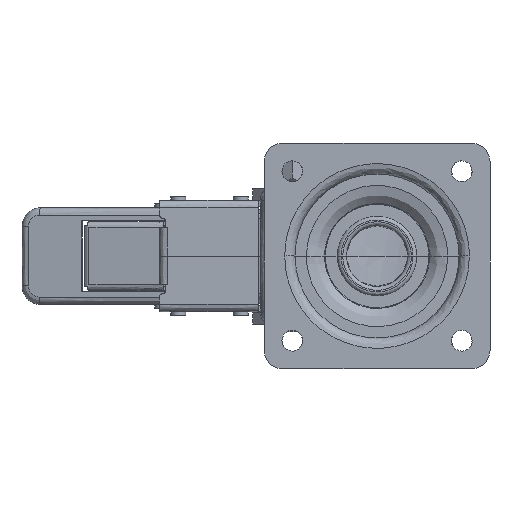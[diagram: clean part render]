
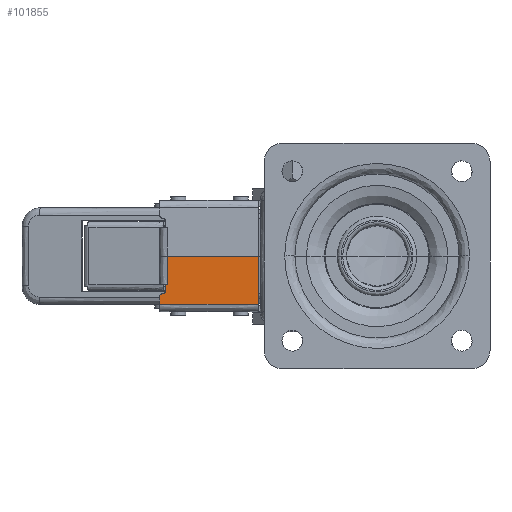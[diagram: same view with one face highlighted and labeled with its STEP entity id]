
A CAD part, top view. The second image highlights one B-rep face of the part: STEP entity #101855.
In plain terms, the highlighted planar face has unit normal (0, 0, 1).
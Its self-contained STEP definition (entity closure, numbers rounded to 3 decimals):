
#4561 = VERTEX_POINT ( 'NONE', #137973 ) ;
#4562 = VERTEX_POINT ( 'NONE', #137975 ) ;
#4563 = VERTEX_POINT ( 'NONE', #137977 ) ;
#4564 = VERTEX_POINT ( 'NONE', #137979 ) ;
#4565 = VERTEX_POINT ( 'NONE', #137981 ) ;
#4566 = VERTEX_POINT ( 'NONE', #137983 ) ;
#4579 = VERTEX_POINT ( 'NONE', #138012 ) ;
#4580 = VERTEX_POINT ( 'NONE', #138014 ) ;
#12222 = CARTESIAN_POINT ( 'NONE',  ( -18.004, -25.6, 99. ) ) ;
#12240 = CARTESIAN_POINT ( 'NONE',  ( -70.504, -25.6, 99. ) ) ;
#15230 = EDGE_CURVE ( 'NONE', #4580, #4566, #101530, .T. ) ;
#15231 = EDGE_CURVE ( 'NONE', #4579, #4580, #101529, .T. ) ;
#15232 = EDGE_CURVE ( 'NONE', #4561, #4579, #101528, .T. ) ;
#15246 = EDGE_CURVE ( 'NONE', #4565, #4566, #101514, .T. ) ;
#15248 = EDGE_CURVE ( 'NONE', #4565, #4564, #101512, .T. ) ;
#15250 = EDGE_CURVE ( 'NONE', #4562, #4563, #101510, .T. ) ;
#15251 = EDGE_CURVE ( 'NONE', #4563, #4564, #101509, .T. ) ;
#15255 = EDGE_CURVE ( 'NONE', #137609, #4562, #101505, .T. ) ;
#15257 = EDGE_CURVE ( 'NONE', #4561, #137594, #101503, .T. ) ;
#24963 = EDGE_LOOP ( 'NONE', ( #141538, #141539, #141540, #141541, #141542, #141543, #141544, #141545, #141546, #141547 ) ) ;
#32164 = EDGE_CURVE ( 'NONE', #137594, #137609, #103306, .T. ) ;
#85835 = CARTESIAN_POINT ( 'NONE',  ( -18.004, 0., 99. ) ) ;
#85881 = PLANE ( 'NONE',  #141026 ) ;
#85898 = DIRECTION ( 'NONE',  ( 0., 0., 1. ) ) ;
#85900 = DIRECTION ( 'NONE',  ( -1., 0., 0. ) ) ;
#101503 = B_SPLINE_CURVE_WITH_KNOTS ( 'NONE', 3,
 ( #145000, #145032, #145033, #145034 ),
 .UNSPECIFIED., .F., .F.,
 ( 4, 4 ),
 ( 0., 1. ),
 .UNSPECIFIED. ) ;
#101505 = B_SPLINE_CURVE_WITH_KNOTS ( 'NONE', 3,
 ( #144995, #145001, #145002, #145003 ),
 .UNSPECIFIED., .F., .F.,
 ( 4, 4 ),
 ( 0., 1. ),
 .UNSPECIFIED. ) ;
#101509 = B_SPLINE_CURVE_WITH_KNOTS ( 'NONE', 3,
 ( #144962, #144985, #144986, #144987 ),
 .UNSPECIFIED., .F., .F.,
 ( 4, 4 ),
 ( 0., 1. ),
 .UNSPECIFIED. ) ;
#101510 = B_SPLINE_CURVE_WITH_KNOTS ( 'NONE', 3,
 ( #144978, #144981, #144982, #144983 ),
 .UNSPECIFIED., .F., .F.,
 ( 4, 4 ),
 ( 0., 1. ),
 .UNSPECIFIED. ) ;
#101512 = B_SPLINE_CURVE_WITH_KNOTS ( 'NONE', 3,
 ( #144958, #144963, #144964, #144965, #144966, #144967, #144968, #144969, #144970, #144971, #144972, #144973, #144974, #144975, #144976, #144977 ),
 .UNSPECIFIED., .F., .F.,
 ( 4, 1, 2, 2, 2, 1, 2, 2, 4 ),
 ( 0., 0.125, 0.188, 0.25, 0.5, 0.625, 0.687, 0.75, 1. ),
 .UNSPECIFIED. ) ;
#101514 = B_SPLINE_CURVE_WITH_KNOTS ( 'NONE', 3,
 ( #144951, #144955, #144956, #144957 ),
 .UNSPECIFIED., .F., .F.,
 ( 4, 4 ),
 ( 0., 1. ),
 .UNSPECIFIED. ) ;
#101528 = B_SPLINE_CURVE_WITH_KNOTS ( 'NONE', 3,
 ( #144872, #144878, #144879, #144880 ),
 .UNSPECIFIED., .F., .F.,
 ( 4, 4 ),
 ( 0., 1. ),
 .UNSPECIFIED. ) ;
#101529 = B_SPLINE_CURVE_WITH_KNOTS ( 'NONE', 3,
 ( #144868, #144874, #144875, #144876 ),
 .UNSPECIFIED., .F., .F.,
 ( 4, 4 ),
 ( 0., 1. ),
 .UNSPECIFIED. ) ;
#101530 = B_SPLINE_CURVE_WITH_KNOTS ( 'NONE', 3,
 ( #144862, #144869, #144870, #144871 ),
 .UNSPECIFIED., .F., .F.,
 ( 4, 4 ),
 ( 0., 1. ),
 .UNSPECIFIED. ) ;
#101855 = ADVANCED_FACE ( 'NONE', ( #142942 ), #85881, .T. ) ;
#103306 = B_SPLINE_CURVE_WITH_KNOTS ( 'NONE', 1,
 ( #131380, #131381 ),
 .UNSPECIFIED., .F., .F.,
 ( 2, 2 ),
 ( 0., 1. ),
 .UNSPECIFIED. ) ;
#131380 = CARTESIAN_POINT ( 'NONE',  ( -18.004, -25.6, 99. ) ) ;
#131381 = CARTESIAN_POINT ( 'NONE',  ( -70.504, -25.6, 99. ) ) ;
#137594 = VERTEX_POINT ( 'NONE', #12222 ) ;
#137609 = VERTEX_POINT ( 'NONE', #12240 ) ;
#137973 = CARTESIAN_POINT ( 'NONE',  ( -18.004, 0., 99. ) ) ;
#137975 = CARTESIAN_POINT ( 'NONE',  ( -70.504, -21.6, 99. ) ) ;
#137977 = CARTESIAN_POINT ( 'NONE',  ( -70.503, -21.554, 99. ) ) ;
#137979 = CARTESIAN_POINT ( 'NONE',  ( -68.904, -20., 99. ) ) ;
#137981 = CARTESIAN_POINT ( 'NONE',  ( -67.304, -18.4, 99. ) ) ;
#137983 = CARTESIAN_POINT ( 'NONE',  ( -67.304, -15., 99. ) ) ;
#138012 = CARTESIAN_POINT ( 'NONE',  ( -66.504, 0., 99. ) ) ;
#138014 = CARTESIAN_POINT ( 'NONE',  ( -66.504, -15., 99. ) ) ;
#141026 = AXIS2_PLACEMENT_3D ( 'NONE', #85835, #85898, #85900 ) ;
#141538 = ORIENTED_EDGE ( 'NONE', *, *, #15257, .F. ) ;
#141539 = ORIENTED_EDGE ( 'NONE', *, *, #15232, .T. ) ;
#141540 = ORIENTED_EDGE ( 'NONE', *, *, #15231, .T. ) ;
#141541 = ORIENTED_EDGE ( 'NONE', *, *, #15230, .T. ) ;
#141542 = ORIENTED_EDGE ( 'NONE', *, *, #15246, .F. ) ;
#141543 = ORIENTED_EDGE ( 'NONE', *, *, #15248, .T. ) ;
#141544 = ORIENTED_EDGE ( 'NONE', *, *, #15251, .F. ) ;
#141545 = ORIENTED_EDGE ( 'NONE', *, *, #15250, .F. ) ;
#141546 = ORIENTED_EDGE ( 'NONE', *, *, #15255, .F. ) ;
#141547 = ORIENTED_EDGE ( 'NONE', *, *, #32164, .F. ) ;
#142942 = FACE_OUTER_BOUND ( 'NONE', #24963, .T. ) ;
#144862 = CARTESIAN_POINT ( 'NONE',  ( -66.504, -15., 99. ) ) ;
#144868 = CARTESIAN_POINT ( 'NONE',  ( -66.504, 0., 99. ) ) ;
#144869 = CARTESIAN_POINT ( 'NONE',  ( -66.77, -15., 99. ) ) ;
#144870 = CARTESIAN_POINT ( 'NONE',  ( -67.037, -15., 99. ) ) ;
#144871 = CARTESIAN_POINT ( 'NONE',  ( -67.304, -15., 99. ) ) ;
#144872 = CARTESIAN_POINT ( 'NONE',  ( -18.004, 0., 99. ) ) ;
#144874 = CARTESIAN_POINT ( 'NONE',  ( -66.504, -5., 99. ) ) ;
#144875 = CARTESIAN_POINT ( 'NONE',  ( -66.504, -10., 99. ) ) ;
#144876 = CARTESIAN_POINT ( 'NONE',  ( -66.504, -15., 99. ) ) ;
#144878 = CARTESIAN_POINT ( 'NONE',  ( -34.17, 0., 99. ) ) ;
#144879 = CARTESIAN_POINT ( 'NONE',  ( -50.337, 0., 99. ) ) ;
#144880 = CARTESIAN_POINT ( 'NONE',  ( -66.504, 0., 99. ) ) ;
#144951 = CARTESIAN_POINT ( 'NONE',  ( -67.304, -18.4, 99. ) ) ;
#144955 = CARTESIAN_POINT ( 'NONE',  ( -67.304, -17.267, 99. ) ) ;
#144956 = CARTESIAN_POINT ( 'NONE',  ( -67.304, -16.133, 99. ) ) ;
#144957 = CARTESIAN_POINT ( 'NONE',  ( -67.304, -15., 99. ) ) ;
#144958 = CARTESIAN_POINT ( 'NONE',  ( -67.304, -18.4, 99. ) ) ;
#144962 = CARTESIAN_POINT ( 'NONE',  ( -70.503, -21.554, 99. ) ) ;
#144963 = CARTESIAN_POINT ( 'NONE',  ( -67.304, -18.509, 99. ) ) ;
#144964 = CARTESIAN_POINT ( 'NONE',  ( -67.319, -18.668, 99. ) ) ;
#144965 = CARTESIAN_POINT ( 'NONE',  ( -67.359, -18.822, 99. ) ) ;
#144966 = CARTESIAN_POINT ( 'NONE',  ( -67.39, -18.923, 99. ) ) ;
#144967 = CARTESIAN_POINT ( 'NONE',  ( -67.409, -18.975, 99. ) ) ;
#144968 = CARTESIAN_POINT ( 'NONE',  ( -67.51, -19.214, 99. ) ) ;
#144969 = CARTESIAN_POINT ( 'NONE',  ( -67.625, -19.384, 99. ) ) ;
#144970 = CARTESIAN_POINT ( 'NONE',  ( -67.846, -19.605, 99. ) ) ;
#144971 = CARTESIAN_POINT ( 'NONE',  ( -67.965, -19.703, 99. ) ) ;
#144972 = CARTESIAN_POINT ( 'NONE',  ( -68.096, -19.783, 99. ) ) ;
#144973 = CARTESIAN_POINT ( 'NONE',  ( -68.186, -19.832, 99. ) ) ;
#144974 = CARTESIAN_POINT ( 'NONE',  ( -68.231, -19.853, 99. ) ) ;
#144975 = CARTESIAN_POINT ( 'NONE',  ( -68.478, -19.958, 99. ) ) ;
#144976 = CARTESIAN_POINT ( 'NONE',  ( -68.686, -20., 99. ) ) ;
#144977 = CARTESIAN_POINT ( 'NONE',  ( -68.904, -20., 99. ) ) ;
#144978 = CARTESIAN_POINT ( 'NONE',  ( -70.504, -21.6, 99. ) ) ;
#144981 = CARTESIAN_POINT ( 'NONE',  ( -70.504, -21.585, 99. ) ) ;
#144982 = CARTESIAN_POINT ( 'NONE',  ( -70.503, -21.57, 99. ) ) ;
#144983 = CARTESIAN_POINT ( 'NONE',  ( -70.503, -21.554, 99. ) ) ;
#144985 = CARTESIAN_POINT ( 'NONE',  ( -70.479, -20.692, 99. ) ) ;
#144986 = CARTESIAN_POINT ( 'NONE',  ( -69.772, -20., 99. ) ) ;
#144987 = CARTESIAN_POINT ( 'NONE',  ( -68.904, -20., 99. ) ) ;
#144995 = CARTESIAN_POINT ( 'NONE',  ( -70.504, -25.6, 99. ) ) ;
#145000 = CARTESIAN_POINT ( 'NONE',  ( -18.004, 0., 99. ) ) ;
#145001 = CARTESIAN_POINT ( 'NONE',  ( -70.504, -24.267, 99. ) ) ;
#145002 = CARTESIAN_POINT ( 'NONE',  ( -70.504, -22.933, 99. ) ) ;
#145003 = CARTESIAN_POINT ( 'NONE',  ( -70.504, -21.6, 99. ) ) ;
#145032 = CARTESIAN_POINT ( 'NONE',  ( -18.004, -8.533, 99. ) ) ;
#145033 = CARTESIAN_POINT ( 'NONE',  ( -18.004, -17.067, 99. ) ) ;
#145034 = CARTESIAN_POINT ( 'NONE',  ( -18.004, -25.6, 99. ) ) ;
